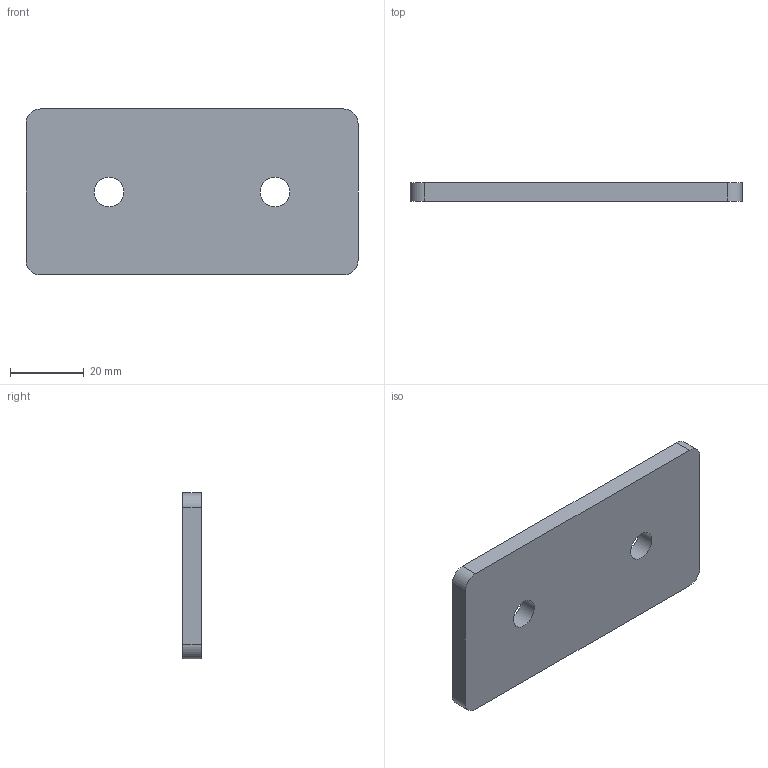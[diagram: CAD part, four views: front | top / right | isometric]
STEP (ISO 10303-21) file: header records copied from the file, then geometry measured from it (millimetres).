
FILE_DESCRIPTION( ( 'STEP AP203' ), '1' );
FILE_NAME( 'C:/Temp/Ganter_Step_05_03_2020/data/3_7/gn_967/gn_967_2/gn_967_2_f/Shackle GN 967-45-90-F-2-ZB.stp', '2020-03-12T14:48:24', ( 'License CC BY-ND 4.0' ), ( 'CADENAS' ), ' ', 'PARTsolutions', ' ' );
FILE_SCHEMA( ( 'CONFIG_CONTROL_DESIGN' ) );
Length unit declared in the file: millimetre
Products named in the file (1): _Shackle GN 967-45-90-F-2-ZB
Bounding box: 90 x 5 x 45 mm (x, y, z)
Volume: 19678.7 mm3; surface area: 9438.5 mm2
Topology: 1 solids, 1 shells, 12 faces, 30 edges, 20 vertices
Faces by surface type: plane 6, cylinder 6
Full cylindrical faces by diameter (mm): 8 x2
Entity records: 408 total; most frequent: DIRECTION 66, CARTESIAN_POINT 61, ORIENTED_EDGE 56, EDGE_CURVE 28, AXIS2_PLACEMENT_3D 25, VERTEX_POINT 20, EDGE_LOOP 18, LINE 16
